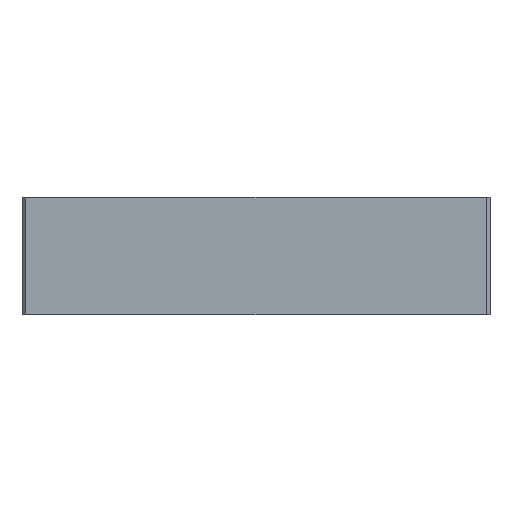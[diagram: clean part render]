
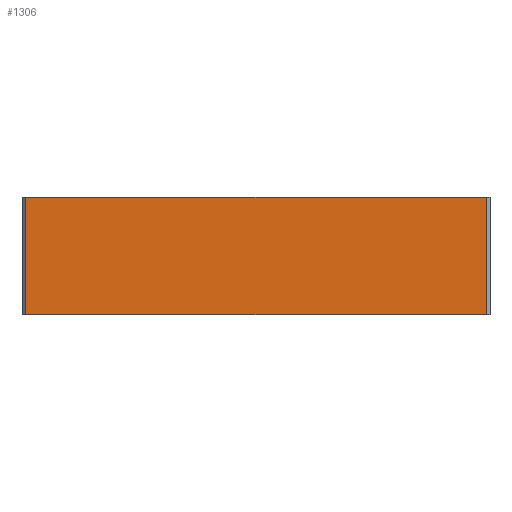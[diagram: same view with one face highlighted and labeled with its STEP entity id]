
A CAD part, front view. The second image highlights one B-rep face of the part: STEP entity #1306.
In plain terms, the highlighted planar face has unit normal (0, -1, 0).
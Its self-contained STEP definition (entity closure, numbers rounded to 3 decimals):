
#2 = CARTESIAN_POINT ( 'NONE',  ( 29.5, -30., 7.5 ) ) ;
#65 = VECTOR ( 'NONE', #116, 1000. ) ;
#67 = CARTESIAN_POINT ( 'NONE',  ( 29.5, -30., 7.5 ) ) ;
#83 = ORIENTED_EDGE ( 'NONE', *, *, #200, .F. ) ;
#102 = ORIENTED_EDGE ( 'NONE', *, *, #1201, .T. ) ;
#116 = DIRECTION ( 'NONE',  ( 1., 0., 0. ) ) ;
#154 = VERTEX_POINT ( 'NONE', #1035 ) ;
#200 = EDGE_CURVE ( 'NONE', #1340, #500, #824, .T. ) ;
#202 = CARTESIAN_POINT ( 'NONE',  ( -30., -30., -7.5 ) ) ;
#251 = EDGE_CURVE ( 'NONE', #1340, #282, #793, .T. ) ;
#261 = ORIENTED_EDGE ( 'NONE', *, *, #1019, .T. ) ;
#282 = VERTEX_POINT ( 'NONE', #1328 ) ;
#356 = VECTOR ( 'NONE', #818, 1000. ) ;
#500 = VERTEX_POINT ( 'NONE', #67 ) ;
#547 = FACE_OUTER_BOUND ( 'NONE', #575, .T. ) ;
#575 = EDGE_LOOP ( 'NONE', ( #83, #1257, #102, #261 ) ) ;
#793 = LINE ( 'NONE', #1123, #1114 ) ;
#808 = LINE ( 'NONE', #202, #1335 ) ;
#818 = DIRECTION ( 'NONE',  ( 0., 0., 1. ) ) ;
#824 = LINE ( 'NONE', #929, #65 ) ;
#860 = CARTESIAN_POINT ( 'NONE',  ( -29.5, -30., 7.5 ) ) ;
#877 = DIRECTION ( 'NONE',  ( 0., 1., 0. ) ) ;
#902 = DIRECTION ( 'NONE',  ( 1., 0., 0. ) ) ;
#929 = CARTESIAN_POINT ( 'NONE',  ( -30., -30., 7.5 ) ) ;
#1019 = EDGE_CURVE ( 'NONE', #154, #500, #1383, .T. ) ;
#1035 = CARTESIAN_POINT ( 'NONE',  ( 29.5, -30., -7.5 ) ) ;
#1113 = DIRECTION ( 'NONE',  ( 0., 0., -1. ) ) ;
#1114 = VECTOR ( 'NONE', #1113, 1000. ) ;
#1123 = CARTESIAN_POINT ( 'NONE',  ( -29.5, -30., 7.5 ) ) ;
#1183 = DIRECTION ( 'NONE',  ( -1., 0., 0. ) ) ;
#1191 = CARTESIAN_POINT ( 'NONE',  ( -30., -30., 7.5 ) ) ;
#1200 = AXIS2_PLACEMENT_3D ( 'NONE', #1191, #877, #1183 ) ;
#1201 = EDGE_CURVE ( 'NONE', #282, #154, #808, .T. ) ;
#1257 = ORIENTED_EDGE ( 'NONE', *, *, #251, .T. ) ;
#1306 = ADVANCED_FACE ( 'NONE', ( #547 ), #1394, .F. ) ;
#1328 = CARTESIAN_POINT ( 'NONE',  ( -29.5, -30., -7.5 ) ) ;
#1335 = VECTOR ( 'NONE', #902, 1000. ) ;
#1340 = VERTEX_POINT ( 'NONE', #860 ) ;
#1383 = LINE ( 'NONE', #2, #356 ) ;
#1394 = PLANE ( 'NONE',  #1200 ) ;
